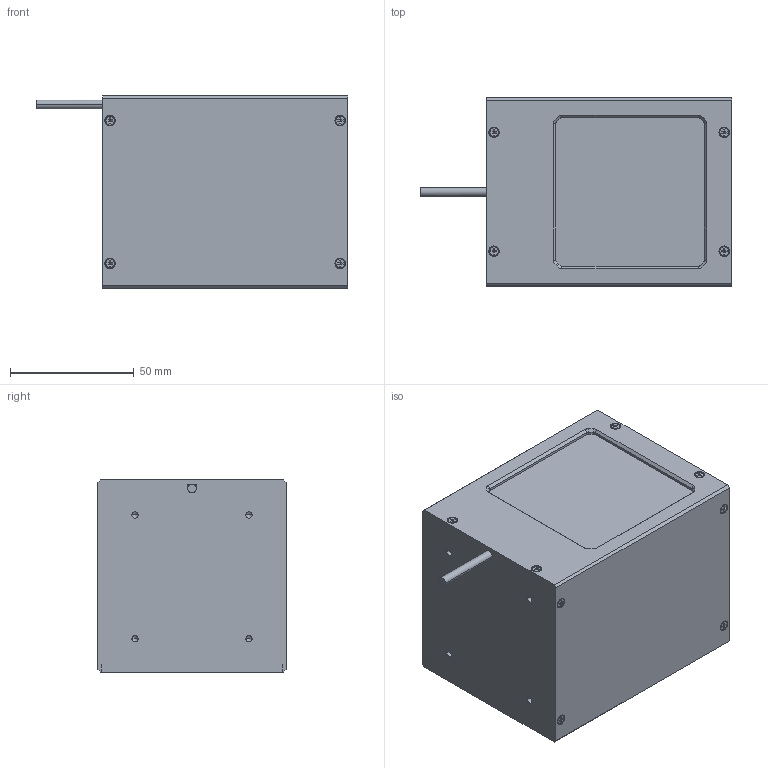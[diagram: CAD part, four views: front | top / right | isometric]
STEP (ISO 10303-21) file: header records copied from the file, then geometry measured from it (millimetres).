
FILE_DESCRIPTION((''),'2;1');
FILE_NAME('PRT0005','2022-10-19T01:14:57',('jiabaodong'),(''),'CREO PARAMETRIC BY PTC INC, 2020044','CREO PARAMETRIC BY PTC INC, 2020044','');
FILE_SCHEMA(('CONFIG_CONTROL_DESIGN'));
Length unit declared in the file: millimetre
Products named in the file (1): PRT0005
Bounding box: 125.74 x 76 x 77.7 mm (x, y, z)
Volume: 141754.6 mm3; surface area: 98616.1 mm2
Topology: 1 solids, 14 shells, 1009 faces, 2388 edges, 1413 vertices
Faces by surface type: plane 581, cylinder 268, cone 120, torus 40
Entity records: 28681 total; most frequent: CARTESIAN_POINT 5548, DIRECTION 4874, ORIENTED_EDGE 4700, EDGE_CURVE 2350, AXIS2_PLACEMENT_3D 1656, VECTOR 1562, LINE 1562, VERTEX_POINT 1413
